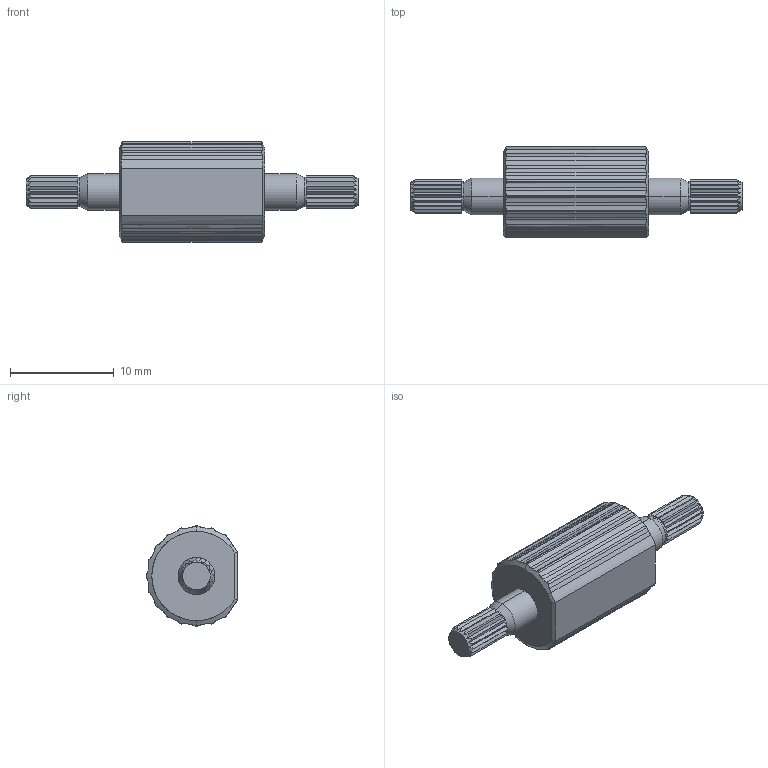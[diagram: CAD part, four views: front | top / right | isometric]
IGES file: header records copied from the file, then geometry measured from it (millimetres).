
Start section: SolidWorks IGES file using analytic representation for surfaces
Global section: file name: G:\RELEASED\83500\83560-XXX TI-300 Series\83560-0XX & 1XX TI-320\TI-320-X.XX-05.IGS; native system: SolidWorks 2017; preprocessor: SolidWorks 2017; author: hmanderson; date: 180828.143649; units: millimetre
Bounding box: 32 x 8.84 x 9.71 mm (x, y, z)
Surface area: 752.3 mm2 (no closed solid volume)
Topology: 0 solids, 0 shells, 261 faces, 1620 edges, 1620 vertices
Faces by surface type: revolution 132, bspline 129
